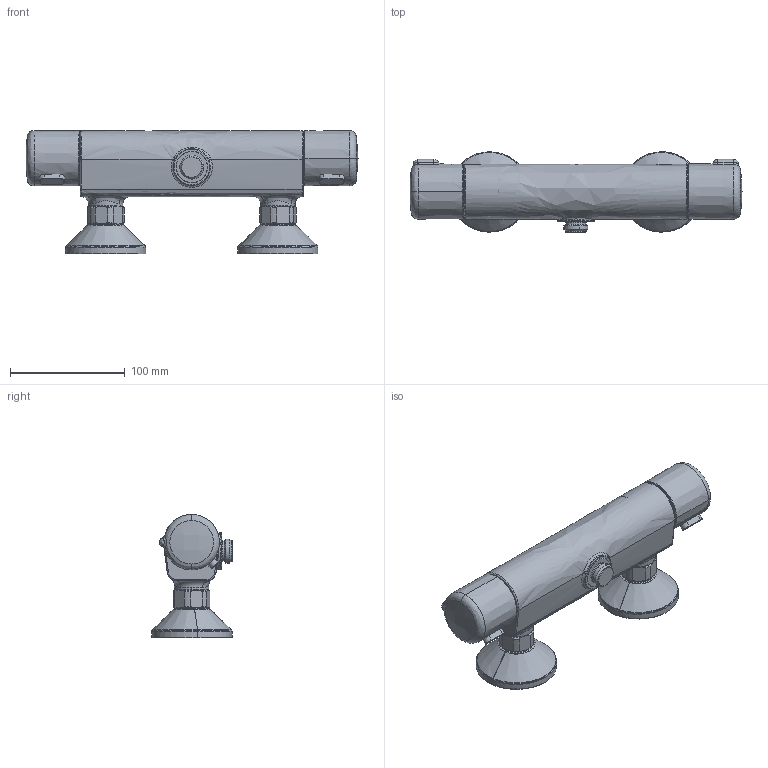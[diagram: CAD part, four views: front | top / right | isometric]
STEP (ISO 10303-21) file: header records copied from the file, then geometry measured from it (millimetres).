
FILE_DESCRIPTION (( 'STEP AP203' ), '1' );
FILE_NAME ('7460C-33(2022).STEP', '2022-09-05T10:52:12', ( '' ), ( '' ), 'SwSTEP 2.0', 'SolidWorks 2016', '' );
FILE_SCHEMA (( 'CONFIG_CONTROL_DESIGN' ));
Length unit declared in the file: millimetre
Products named in the file (1): 7460C-33(2022)
Bounding box: 289.19 x 70.19 x 107.2 mm (x, y, z)
Volume: 680348.2 mm3; surface area: 83318.9 mm2
Topology: 1 solids, 1 shells, 237 faces, 536 edges, 319 vertices
Faces by surface type: cylinder 59, bspline 56, cone 48, plane 44, torus 24, sphere 6
Entity records: 11930 total; most frequent: CARTESIAN_POINT 6919, ORIENTED_EDGE 1068, DIRECTION 987, EDGE_CURVE 534, AXIS2_PLACEMENT_3D 437, VERTEX_POINT 319, EDGE_LOOP 257, CIRCLE 255
